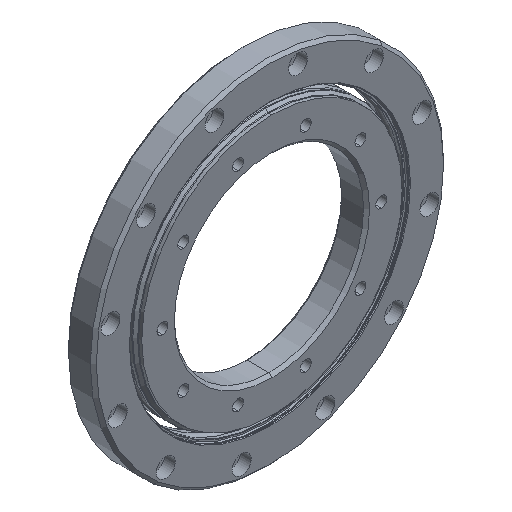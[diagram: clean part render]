
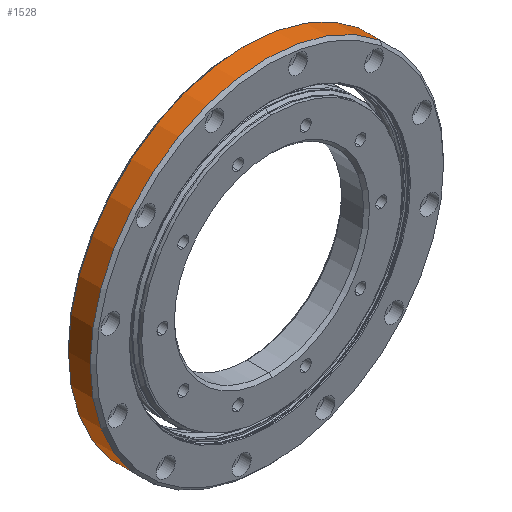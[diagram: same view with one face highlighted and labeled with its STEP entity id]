
A CAD part, isometric view. The second image highlights one B-rep face of the part: STEP entity #1528.
In plain terms, the highlighted cylindrical face has radius 88.9 mm (diameter 177.8 mm), a partial arc.
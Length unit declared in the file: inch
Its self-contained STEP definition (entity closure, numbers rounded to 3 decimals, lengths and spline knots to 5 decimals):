
#136 = CYLINDRICAL_SURFACE ( 'NONE', #4462, 3.5 ) ;
#304 = VECTOR ( 'NONE', #3605, 39.37008 ) ;
#441 = LINE ( 'NONE', #4466, #304 ) ;
#479 = ORIENTED_EDGE ( 'NONE', *, *, #2706, .T. ) ;
#546 = CARTESIAN_POINT ( 'NONE',  ( 0., 0.5315, 0. ) ) ;
#983 = AXIS2_PLACEMENT_3D ( 'NONE', #546, #3585, #1004 ) ;
#1004 = DIRECTION ( 'NONE',  ( 0., 0., -1. ) ) ;
#1123 = DIRECTION ( 'NONE',  ( 0., -1., 0. ) ) ;
#1226 = CARTESIAN_POINT ( 'NONE',  ( 0., 0.09843, 3.5 ) ) ;
#1347 = VECTOR ( 'NONE', #2798, 39.37008 ) ;
#1528 = ADVANCED_FACE ( 'NONE', ( #4726 ), #136, .T. ) ;
#1566 = EDGE_LOOP ( 'NONE', ( #3072, #2938, #479, #5402 ) ) ;
#1595 = CARTESIAN_POINT ( 'NONE',  ( 0., 0.09843, -3.5 ) ) ;
#1978 = CARTESIAN_POINT ( 'NONE',  ( 0., 0.5315, -3.5 ) ) ;
#2256 = EDGE_CURVE ( 'NONE', #3321, #4708, #4785, .T. ) ;
#2261 = CARTESIAN_POINT ( 'NONE',  ( 0., 0.09843, 0. ) ) ;
#2401 = VERTEX_POINT ( 'NONE', #1595 ) ;
#2670 = EDGE_CURVE ( 'NONE', #3321, #4341, #3039, .T. ) ;
#2675 = DIRECTION ( 'NONE',  ( 0., 0., -1. ) ) ;
#2706 = EDGE_CURVE ( 'NONE', #4341, #2401, #441, .T. ) ;
#2798 = DIRECTION ( 'NONE',  ( 0., -1., 0. ) ) ;
#2938 = ORIENTED_EDGE ( 'NONE', *, *, #2670, .T. ) ;
#3039 = CIRCLE ( 'NONE', #983, 3.5 ) ;
#3072 = ORIENTED_EDGE ( 'NONE', *, *, #2256, .F. ) ;
#3321 = VERTEX_POINT ( 'NONE', #4470 ) ;
#3344 = AXIS2_PLACEMENT_3D ( 'NONE', #2261, #5253, #2675 ) ;
#3585 = DIRECTION ( 'NONE',  ( 0., -1., 0. ) ) ;
#3605 = DIRECTION ( 'NONE',  ( 0., -1., 0. ) ) ;
#3725 = EDGE_CURVE ( 'NONE', #2401, #4708, #4219, .T. ) ;
#3898 = CARTESIAN_POINT ( 'NONE',  ( 0., 0., 3.5 ) ) ;
#4157 = CARTESIAN_POINT ( 'NONE',  ( 0., 0., 0. ) ) ;
#4219 = CIRCLE ( 'NONE', #3344, 3.5 ) ;
#4341 = VERTEX_POINT ( 'NONE', #1978 ) ;
#4462 = AXIS2_PLACEMENT_3D ( 'NONE', #4157, #1123, #5439 ) ;
#4466 = CARTESIAN_POINT ( 'NONE',  ( 0., 0., -3.5 ) ) ;
#4470 = CARTESIAN_POINT ( 'NONE',  ( 0., 0.5315, 3.5 ) ) ;
#4708 = VERTEX_POINT ( 'NONE', #1226 ) ;
#4726 = FACE_OUTER_BOUND ( 'NONE', #1566, .T. ) ;
#4785 = LINE ( 'NONE', #3898, #1347 ) ;
#5253 = DIRECTION ( 'NONE',  ( 0., 1., 0. ) ) ;
#5402 = ORIENTED_EDGE ( 'NONE', *, *, #3725, .T. ) ;
#5439 = DIRECTION ( 'NONE',  ( 0., 0., -1. ) ) ;
